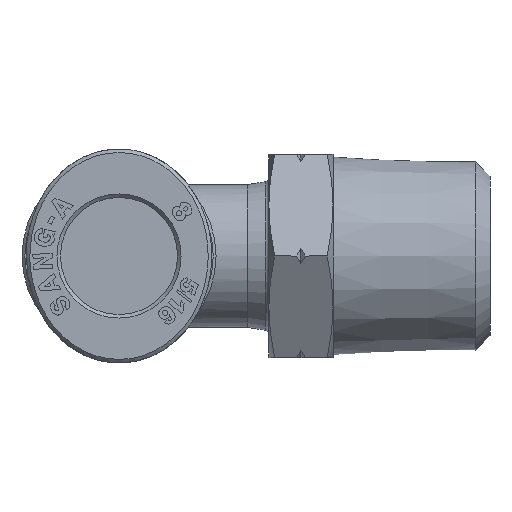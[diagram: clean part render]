
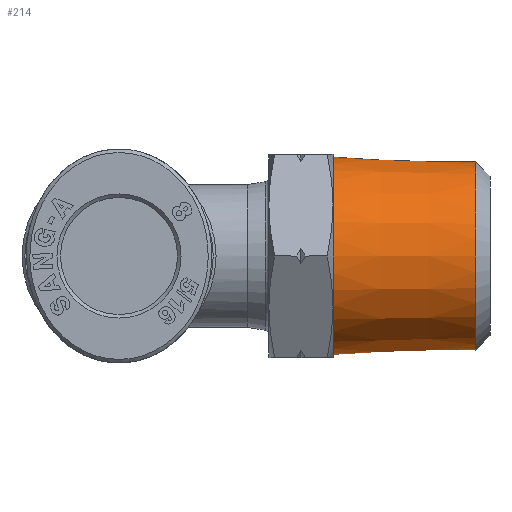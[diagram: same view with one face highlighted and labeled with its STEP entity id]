
A CAD part, front view. The second image highlights one B-rep face of the part: STEP entity #214.
In plain terms, the highlighted conical face has half-angle 1.791 degrees and reference radius 6.758 mm.
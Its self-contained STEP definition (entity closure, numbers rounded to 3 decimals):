
#180=CARTESIAN_POINT('',(16.,6.617,0.));
#181=VERTEX_POINT('',#180);
#182=CARTESIAN_POINT('',(16.,0.0,0.));
#183=DIRECTION('',(1.0,0.0,0.0));
#184=DIRECTION('',(0.0,-1.0,0.0));
#185=AXIS2_PLACEMENT_3D('',#182,#183,#184);
#186=CIRCLE('',#185,6.617);
#187=EDGE_CURVE('',#181,#181,#186,.T.);
#195=CARTESIAN_POINT('',(11.5,0.0,0.0));
#196=DIRECTION('',(-1.0,0.0,0.0));
#197=DIRECTION('',(0.0,1.0,0.0));
#198=AXIS2_PLACEMENT_3D('',#195,#196,#197);
#199=CONICAL_SURFACE('',#198,6.758,1.791);
#200=CARTESIAN_POINT('',(6.,6.93,0.0));
#201=VERTEX_POINT('',#200);
#202=CARTESIAN_POINT('',(6.,0.0,0.0));
#203=DIRECTION('',(1.0,0.0,0.0));
#204=DIRECTION('',(0.0,1.0,0.0));
#205=AXIS2_PLACEMENT_3D('',#202,#203,#204);
#206=CIRCLE('',#205,6.93);
#207=EDGE_CURVE('',#201,#201,#206,.T.);
#208=ORIENTED_EDGE('',*,*,#207,.T.);
#209=EDGE_LOOP('',(#208));
#210=FACE_OUTER_BOUND('',#209,.T.);
#211=ORIENTED_EDGE('',*,*,#187,.F.);
#212=EDGE_LOOP('',(#211));
#213=FACE_BOUND('',#212,.T.);
#214=ADVANCED_FACE('',(#210,#213),#199,.T.);
